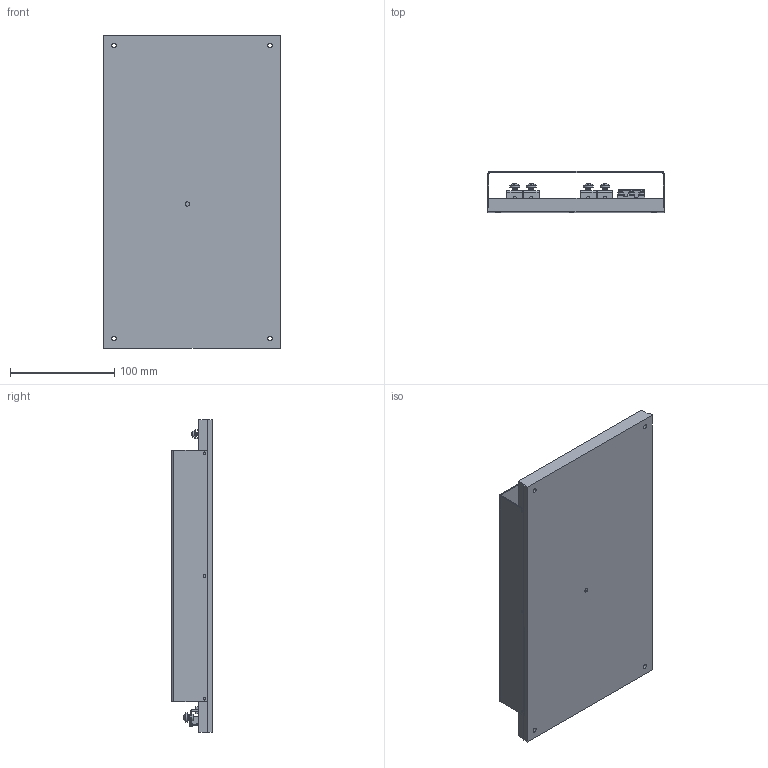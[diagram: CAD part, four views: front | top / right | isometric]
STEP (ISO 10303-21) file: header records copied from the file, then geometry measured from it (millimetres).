
FILE_DESCRIPTION(/* description */ (''),/* implementation_level */ '2;1');
FILE_NAME(/* name */ '',/* time_stamp */ '',/* author */ (''),/* organization */ (''),/* preprocessor_version */ '',/* originating_system */ '',/* authorisation */ '');
FILE_SCHEMA (('AUTOMOTIVE_DESIGN { 1 0 10303 214 3 1 1 }'));
Length unit declared in the file: inch
Products named in the file (1): JETA3000-LP_full
Bounding box: 170 x 39 x 300 mm (x, y, z)
Volume: 670193.9 mm3; surface area: 230066.7 mm2
Topology: 2 solids, 2 shells, 976 faces, 2329 edges, 1407 vertices
Faces by surface type: plane 585, cylinder 236, cone 107, torus 41, sphere 7
Full cylindrical faces by diameter (mm): 2.5 x9, 3 x34, 3.8 x1, 4 x5, 4.2 x4, 4.3 x4, 5 x12, 5.6 x3, 6.3 x4, 9.5 x4
Entity records: 27887 total; most frequent: CARTESIAN_POINT 5063, DIRECTION 4696, ORIENTED_EDGE 4172, EDGE_CURVE 2086, AXIS2_PLACEMENT_3D 1689, VERTEX_POINT 1328, LINE 1318, VECTOR 1318
